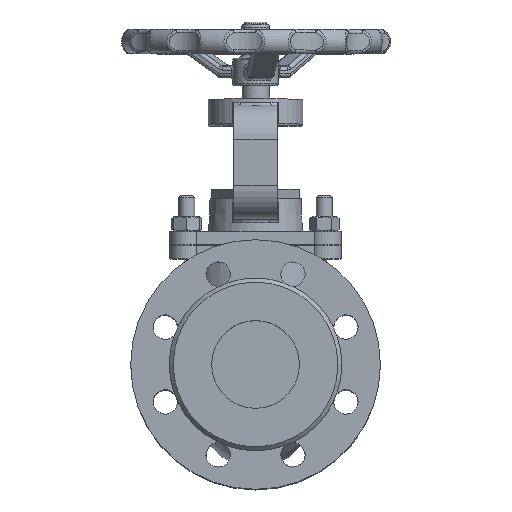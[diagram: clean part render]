
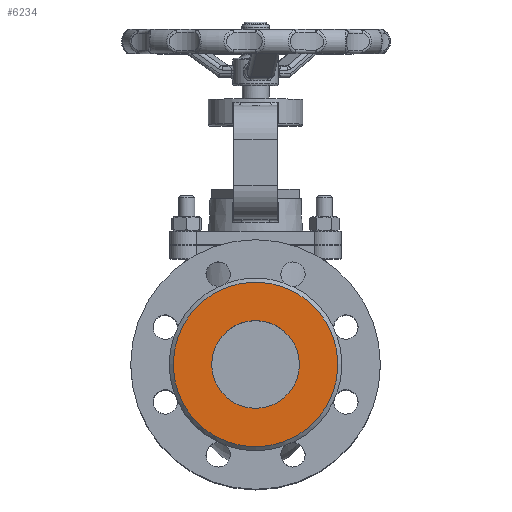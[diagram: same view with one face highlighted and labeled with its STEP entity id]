
A CAD part, top view. The second image highlights one B-rep face of the part: STEP entity #6234.
In plain terms, the highlighted planar face has unit normal (0, 0, 1).
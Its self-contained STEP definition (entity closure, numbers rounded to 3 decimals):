
#6234=ADVANCED_FACE('',(#14562,#14564),#14566,.F.);
#14562=FACE_BOUND('',#14563,.T.);
#14563=EDGE_LOOP('',(#21661));
#14564=FACE_BOUND('',#14565,.T.);
#14565=EDGE_LOOP('',(#21662));
#14566=PLANE('',#14567);
#14567=AXIS2_PLACEMENT_3D('',#14568,#14569,#14570);
#14568=CARTESIAN_POINT('',(0.,0.,145.));
#14569=DIRECTION('',(0.,0.,-1.));
#14570=DIRECTION('',(0.,1.,0.));
#21661=ORIENTED_EDGE('',*,*,#24599,.T.);
#21662=ORIENTED_EDGE('',*,*,#24683,.T.);
#24599=EDGE_CURVE('',#28190,#28190,#28191,.T.);
#24683=EDGE_CURVE('',#28299,#28299,#28300,.T.);
#28190=VERTEX_POINT('',#60752);
#28191=CIRCLE('',#60753,61.);
#28299=VERTEX_POINT('',#62115);
#28300=CIRCLE('',#62116,32.5);
#60752=CARTESIAN_POINT('',(0.,61.,145.));
#60753=AXIS2_PLACEMENT_3D('',#60754,#60755,#60756);
#60754=CARTESIAN_POINT('',(0.,0.,145.));
#60755=DIRECTION('',(0.,0.,1.));
#60756=DIRECTION('',(0.,1.,0.));
#62115=CARTESIAN_POINT('',(-32.5,0.,145.));
#62116=AXIS2_PLACEMENT_3D('',#62117,#62118,#62119);
#62117=CARTESIAN_POINT('',(0.,0.,145.));
#62118=DIRECTION('',(0.,0.,-1.));
#62119=DIRECTION('',(-1.,0.,0.));
